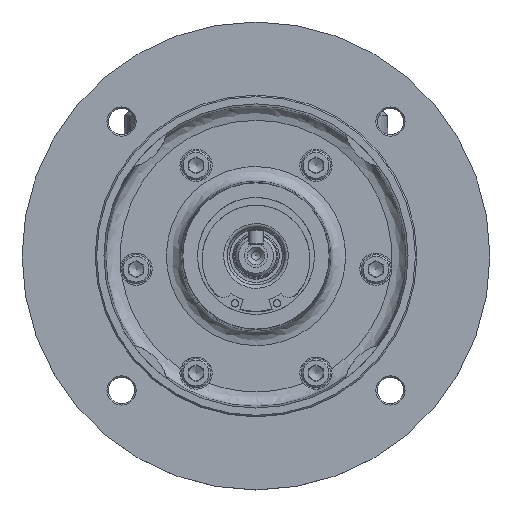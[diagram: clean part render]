
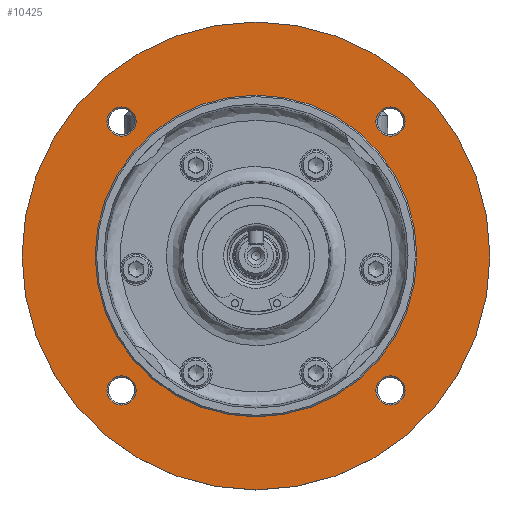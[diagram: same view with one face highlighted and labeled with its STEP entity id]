
A CAD part, top view. The second image highlights one B-rep face of the part: STEP entity #10425.
In plain terms, the highlighted planar face has unit normal (0, 0, 1).
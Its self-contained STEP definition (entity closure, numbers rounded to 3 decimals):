
#249 = AXIS2_PLACEMENT_3D ( 'NONE', #2162, #21098, #7411 ) ;
#415 = ORIENTED_EDGE ( 'NONE', *, *, #3417, .T. ) ;
#711 = CIRCLE ( 'NONE', #13522, 5. ) ;
#829 = VERTEX_POINT ( 'NONE', #7794 ) ;
#1583 = DIRECTION ( 'NONE',  ( 1., 0., 0. ) ) ;
#1623 = CARTESIAN_POINT ( 'NONE',  ( 80., 4.5, 51.55 ) ) ;
#1891 = DIRECTION ( 'NONE',  ( 0., 0., -1. ) ) ;
#2055 = EDGE_LOOP ( 'NONE', ( #12127 ) ) ;
#2111 = EDGE_CURVE ( 'NONE', #10917, #10917, #4317, .T. ) ;
#2162 = CARTESIAN_POINT ( 'NONE',  ( 0., 4.5, 51.55 ) ) ;
#2375 = CARTESIAN_POINT ( 'NONE',  ( 45.962, 50.462, 51.55 ) ) ;
#3141 = ORIENTED_EDGE ( 'NONE', *, *, #9113, .T. ) ;
#3198 = EDGE_LOOP ( 'NONE', ( #22460 ) ) ;
#3228 = AXIS2_PLACEMENT_3D ( 'NONE', #14553, #14665, #7650 ) ;
#3397 = FACE_BOUND ( 'NONE', #10612, .T. ) ;
#3417 = EDGE_CURVE ( 'NONE', #829, #829, #711, .T. ) ;
#3509 = ORIENTED_EDGE ( 'NONE', *, *, #18056, .T. ) ;
#3676 = EDGE_LOOP ( 'NONE', ( #415 ) ) ;
#4317 = CIRCLE ( 'NONE', #3228, 5. ) ;
#4565 = DIRECTION ( 'NONE',  ( 1., 0., 0. ) ) ;
#5042 = CARTESIAN_POINT ( 'NONE',  ( 50.962, 50.462, 51.55 ) ) ;
#5110 = FACE_BOUND ( 'NONE', #3676, .T. ) ;
#5796 = DIRECTION ( 'NONE',  ( 1., 0., 0. ) ) ;
#6226 = AXIS2_PLACEMENT_3D ( 'NONE', #2375, #20179, #5796 ) ;
#6256 = AXIS2_PLACEMENT_3D ( 'NONE', #18812, #11690, #4565 ) ;
#6296 = AXIS2_PLACEMENT_3D ( 'NONE', #21779, #18218, #14299 ) ;
#6644 = VERTEX_POINT ( 'NONE', #1623 ) ;
#6800 = CARTESIAN_POINT ( 'NONE',  ( -45.962, -41.462, 51.55 ) ) ;
#7411 = DIRECTION ( 'NONE',  ( 1., 0., 0. ) ) ;
#7633 = EDGE_LOOP ( 'NONE', ( #3509 ) ) ;
#7650 = DIRECTION ( 'NONE',  ( 1., 0., 0. ) ) ;
#7794 = CARTESIAN_POINT ( 'NONE',  ( -45.962, -46.462, 51.55 ) ) ;
#8424 = CARTESIAN_POINT ( 'NONE',  ( 0., 4.5, 51.55 ) ) ;
#9113 = EDGE_CURVE ( 'NONE', #6644, #6644, #17084, .T. ) ;
#10425 = ADVANCED_FACE ( 'NONE', ( #17306, #13613, #3397, #17186, #5110, #16970 ), #13500, .T. ) ;
#10612 = EDGE_LOOP ( 'NONE', ( #22161 ) ) ;
#10917 = VERTEX_POINT ( 'NONE', #19999 ) ;
#11497 = EDGE_LOOP ( 'NONE', ( #3141 ) ) ;
#11634 = EDGE_CURVE ( 'NONE', #13988, #13988, #19451, .T. ) ;
#11690 = DIRECTION ( 'NONE',  ( 0., 0., -1. ) ) ;
#11757 = CIRCLE ( 'NONE', #6256, 55. ) ;
#11843 = AXIS2_PLACEMENT_3D ( 'NONE', #8424, #20514, #1583 ) ;
#12127 = ORIENTED_EDGE ( 'NONE', *, *, #13401, .T. ) ;
#13401 = EDGE_CURVE ( 'NONE', #21682, #21682, #20243, .T. ) ;
#13500 = PLANE ( 'NONE',  #11843 ) ;
#13522 = AXIS2_PLACEMENT_3D ( 'NONE', #6800, #1891, #17740 ) ;
#13613 = FACE_OUTER_BOUND ( 'NONE', #11497, .T. ) ;
#13988 = VERTEX_POINT ( 'NONE', #5042 ) ;
#14299 = DIRECTION ( 'NONE',  ( 0., -1., 0. ) ) ;
#14553 = CARTESIAN_POINT ( 'NONE',  ( -45.962, 50.462, 51.55 ) ) ;
#14665 = DIRECTION ( 'NONE',  ( 0., 0., -1. ) ) ;
#16970 = FACE_BOUND ( 'NONE', #2055, .T. ) ;
#17084 = CIRCLE ( 'NONE', #249, 80. ) ;
#17186 = FACE_BOUND ( 'NONE', #3198, .T. ) ;
#17306 = FACE_BOUND ( 'NONE', #7633, .T. ) ;
#17740 = DIRECTION ( 'NONE',  ( 0., -1., 0. ) ) ;
#18011 = CARTESIAN_POINT ( 'NONE',  ( 45.962, -46.462, 51.55 ) ) ;
#18056 = EDGE_CURVE ( 'NONE', #19855, #19855, #11757, .T. ) ;
#18218 = DIRECTION ( 'NONE',  ( 0., 0., -1. ) ) ;
#18812 = CARTESIAN_POINT ( 'NONE',  ( 0., 4.5, 51.55 ) ) ;
#19451 = CIRCLE ( 'NONE', #6226, 5. ) ;
#19855 = VERTEX_POINT ( 'NONE', #21441 ) ;
#19999 = CARTESIAN_POINT ( 'NONE',  ( -40.962, 50.462, 51.55 ) ) ;
#20179 = DIRECTION ( 'NONE',  ( 0., 0., -1. ) ) ;
#20243 = CIRCLE ( 'NONE', #6296, 5. ) ;
#20514 = DIRECTION ( 'NONE',  ( 0., 0., 1. ) ) ;
#21098 = DIRECTION ( 'NONE',  ( 0., 0., 1. ) ) ;
#21441 = CARTESIAN_POINT ( 'NONE',  ( 55., 4.5, 51.55 ) ) ;
#21682 = VERTEX_POINT ( 'NONE', #18011 ) ;
#21779 = CARTESIAN_POINT ( 'NONE',  ( 45.962, -41.462, 51.55 ) ) ;
#22161 = ORIENTED_EDGE ( 'NONE', *, *, #11634, .T. ) ;
#22460 = ORIENTED_EDGE ( 'NONE', *, *, #2111, .T. ) ;
